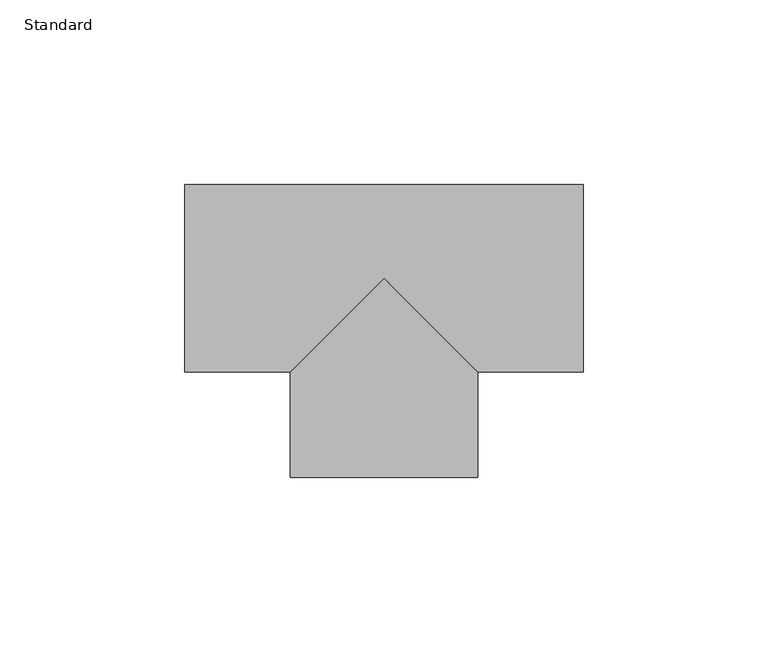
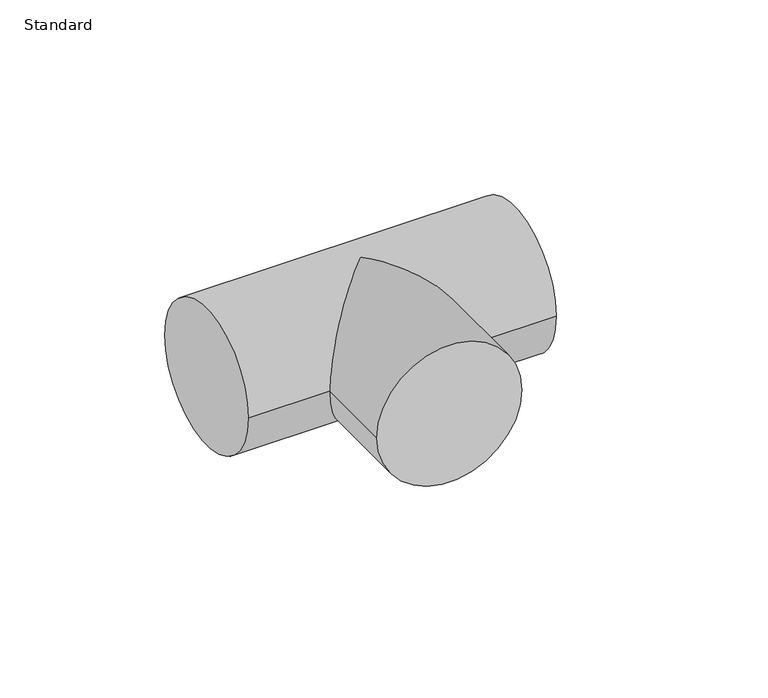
"""IFC4 building model written with IfcOpenShell, lengths in millimetres: pipe fitting geometry, M_Tee - CPVC - Sch 40 : Standard."""

from ifc_helpers import new_model, si_unit, frame, origin, place, context, project, spatial, circle_curve, ellipse_curve, source, transform, mapped, element, save
from ifc_brep_helpers import plane_surface, cylinder_surface, advanced_brep


def standard_08ff6011(model_context):
    return source(origin(), model_context, "Body", "AdvancedBrep", [
        advanced_brep(
        [(-53.975, -25.4, 0.0), (-53.975, 25.4, 0.0), (53.975, -25.4, 0.0), (53.975, 25.4, 0.0), (-25.4, -25.4, 0.0), (0.0, 0.0, 25.4), (25.4, -25.4, 0.0), (0.0, 0.0, -25.4), (-25.4, -53.975, 0.0), (25.4, -53.975, 0.0)],
        [
            (0, 1, circle_curve(frame((-53.975, 0.0, 0.0), z_axis=(-1.0, 0.0, 0.0), x_axis=(0.0, 1.0, 0.0)), 25.4)),
            (1, 0, circle_curve(frame((-53.975, 0.0, 0.0), z_axis=(-1.0, 0.0, 0.0), x_axis=(0.0, 1.0, 0.0)), 25.4)),
            (2, 3, circle_curve(frame((53.975, 0.0, 0.0), z_axis=(1.0, 0.0, 0.0), x_axis=(0.0, 1.0, 0.0)), 25.4)),
            (3, 2, circle_curve(frame((53.975, 0.0, 0.0), z_axis=(1.0, 0.0, 0.0), x_axis=(0.0, 1.0, 0.0)), 25.4)),
            (0, 4),
            (4, 5, ellipse_curve(frame((0.0, 0.0, 0.0), z_axis=(-0.7071067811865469, 0.7071067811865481, 0.0), x_axis=(-0.707106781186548, -0.7071067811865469, 0.0)), 35.9210245, 25.4)),
            (5, 6, ellipse_curve(frame((0.0, 0.0, 0.0), z_axis=(0.707106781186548, 0.7071067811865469, 0.0), x_axis=(-0.707106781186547, 0.707106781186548, 0.0)), 35.9210245, 25.4)),
            (6, 2),
            (3, 1),
            (6, 7, ellipse_curve(frame((0.0, 0.0, 0.0), z_axis=(0.707106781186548, 0.7071067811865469, 0.0), x_axis=(-0.707106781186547, 0.707106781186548, 0.0)), 35.9210245, 25.4)),
            (7, 4, ellipse_curve(frame((0.0, 0.0, 0.0), z_axis=(-0.7071067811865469, 0.7071067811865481, 0.0), x_axis=(-0.707106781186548, -0.7071067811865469, 0.0)), 35.9210245, 25.4)),
            (8, 9, circle_curve(frame((0.0, -53.975, 0.0), z_axis=(0.0, -1.0, 0.0), x_axis=(1.0, 0.0, 0.0)), 25.4)),
            (9, 8, circle_curve(frame((0.0, -53.975, 0.0), z_axis=(0.0, -1.0, 0.0), x_axis=(1.0, 0.0, 0.0)), 25.4)),
            (9, 6),
            (4, 8),
        ],
        [
            plane_surface(frame((-53.975, 0.0, 0.0), z_axis=(-1.0, 0.0, 0.0), x_axis=(0.0, 0.0, 1.0))),
            plane_surface(frame((53.975, 0.0, 0.0), z_axis=(1.0, 0.0, 0.0), x_axis=(0.0, 0.0, 1.0))),
            cylinder_surface(frame((-53.975, 0.0, 0.0), z_axis=(-1.0, 0.0, 0.0), x_axis=(0.0, 1.0, 0.0)), 25.4),
            plane_surface(frame((0.0, -53.975, 0.0), z_axis=(0.0, -1.0, 0.0), x_axis=(0.0, 0.0, 1.0))),
            cylinder_surface(frame((0.0, 0.0, 0.0), z_axis=(0.0, 1.0, 0.0), x_axis=(1.0, 0.0, 0.0)), 25.4),
        ],
        [
            (0, [[1, 2]]),
            (1, [[3, 4]]),
            (2, [[-1, 5, 6, 7, 8, -4, 9]]),
            (2, [[-2, -9, -3, -8, 10, 11, -5]]),
            (3, [[12, 13]]),
            (4, [[-13, 14, -7, -6, 15]]),
            (4, [[-12, -15, -11, -10, -14]]),
        ],
    ),
    ])


if __name__ == "__main__":
    model = new_model("IFC4")
    model_context = context("Model", 3, world=origin())
    ifc_project = project(units=[si_unit("LENGTHUNIT", "METRE", prefix="MILLI")], contexts=[model_context])
    site = spatial("IfcSite", under=ifc_project)
    building = spatial("IfcBuilding", under=site)
    placement = place(None, origin())
    standard_shape = standard_08ff6011(model_context)
    element("IfcPipeFitting", 1, ObjectType="M_Tee - CPVC - Sch 40 : Standard", at=placement, inside=building, context=model_context, shape_type="MappedRepresentation", body=[
        mapped(standard_shape, transform((0.0, 0.0, 0.0), x_axis=(1.0, 0.0, 0.0), y_axis=(0.0, 1.0, 0.0), z_axis=(0.0, 0.0, 1.0))),
    ])
    save(model, "model.ifc")
